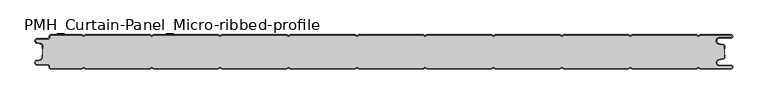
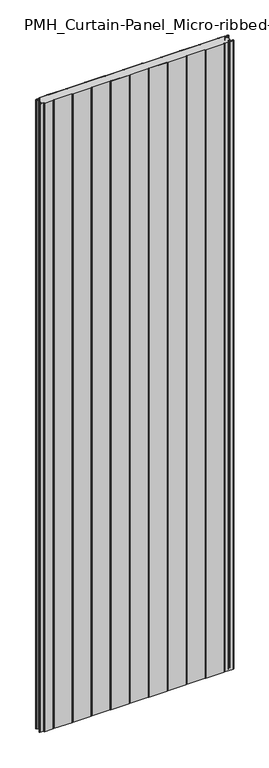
"""IFC4 building model written with IfcOpenShell, lengths in millimetres: plate geometry, PMH_Curtain-Panel_Micro-ribbed-profile : ACH_PMH_Stone-wool-Panel_50M."""

import ifcopenshell
import ifcopenshell.guid

model = None  # the IFC model being written
_history = None  # IfcOwnerHistory: only IFC2X3 demands one
_inside = {}  # id of a spatial element -> (the spatial element, [elements in it])
_under = {}  # id of a project, library or spatial element -> (it, [spatial elements below it])
_declared = {}  # id of a project -> (the project, [libraries it declares])
_typed = {}  # id of a type object -> (the type object, [elements of that type])
_made_of = {}  # id of a material, layer set ... -> (it, [elements and type objects made of it])


def new_model(schema):
    """Start an empty IFC model of exactly this schema.

    Asked for "IFC4X3", IfcOpenShell would pick the latest addendum, in which some entities
    have other attributes; the version numbers below select the first issue.
    IFC2X3 requires an IfcOwnerHistory on every rooted entity: one is made here for all.
    """
    global model, _history
    if schema == "IFC4X3":
        model = ifcopenshell.file(schema_version=(4, 3, 0, 0))
    else:
        model = ifcopenshell.file(schema=schema)
    _inside.clear()
    _under.clear()
    _declared.clear()
    _typed.clear()
    _made_of.clear()
    _history = None
    if model.schema == "IFC2X3":
        org = make("IfcOrganization", Name="unknown")
        user = make(
            "IfcPersonAndOrganization",
            ThePerson=make("IfcPerson", FamilyName="unknown"),
            TheOrganization=org,
        )
        app = make(
            "IfcApplication",
            ApplicationDeveloper=org,
            Version="unknown",
            ApplicationFullName="unknown",
            ApplicationIdentifier="unknown",
        )
        _history = make(
            "IfcOwnerHistory",
            OwningUser=user,
            OwningApplication=app,
            ChangeAction="ADDED",
            CreationDate=0,
        )
    return model


def make(cls, **values):
    """One entity of the class cls with the attributes given. An attribute that is None is left unset."""
    return model.create_entity(
        cls, **{name: value for name, value in values.items() if value is not None}
    )


def rooted(cls, **values):
    """An entity with a GlobalId (a new one), such as an element, a storey or a relation."""
    return make(cls, GlobalId=ifcopenshell.guid.new(), OwnerHistory=_history, **values)


def si_unit(unit_type, name, prefix=None):
    """IfcSIUnit, for example si_unit("LENGTHUNIT", "METRE", prefix="MILLI")."""
    return make("IfcSIUnit", UnitType=unit_type, Prefix=prefix, Name=name)


def assignment(units):
    """IfcUnitAssignment: the units of a project."""
    return None if units is None else make("IfcUnitAssignment", Units=units)


def point(xyz):
    """IfcCartesianPoint."""
    return None if xyz is None else make("IfcCartesianPoint", Coordinates=xyz)


def direction(xyz):
    """IfcDirection."""
    return None if xyz is None else make("IfcDirection", DirectionRatios=xyz)


def frame(location, z_axis=None, x_axis=None):
    """IfcAxis2Placement3D, a coordinate frame: its origin and axes. An axis left out is left unset."""
    return make(
        "IfcAxis2Placement3D",
        Location=point(location),
        Axis=direction(z_axis),
        RefDirection=direction(x_axis),
    )


def frame_2d(location, x_axis=None):
    """IfcAxis2Placement2D, a coordinate frame in the plane: its origin and x axis."""
    return make(
        "IfcAxis2Placement2D", Location=point(location), RefDirection=direction(x_axis)
    )


def origin():
    """The frame at (0, 0, 0) with its axes left unset."""
    return frame((0.0, 0.0, 0.0))


def origin_with_axes():
    """The frame at (0, 0, 0) with the z axis (0, 0, 1) and the x axis (1, 0, 0) written out."""
    return frame((0.0, 0.0, 0.0), z_axis=(0.0, 0.0, 1.0), x_axis=(1.0, 0.0, 0.0))


def place(relative_to, where):
    """IfcLocalPlacement: puts the frame where relative to a parent placement (None: the world)."""
    return make(
        "IfcLocalPlacement", PlacementRelTo=relative_to, RelativePlacement=where
    )


def context(
    kind, dimensions, precision=None, world=None, true_north=None, identifier=None
):
    """IfcGeometricRepresentationContext, for example the 3D "Model" context."""
    return make(
        "IfcGeometricRepresentationContext",
        ContextIdentifier=identifier,
        ContextType=kind,
        CoordinateSpaceDimension=dimensions,
        Precision=precision,
        WorldCoordinateSystem=world,
        TrueNorth=true_north,
    )


def project(units=None, contexts=None):
    """IfcProject with its units and contexts."""
    return rooted(
        "IfcProject",
        Name="project",
        RepresentationContexts=contexts,
        UnitsInContext=assignment(units),
    )


def spatial(cls, under=None, at=None, **own):
    """A site, building, storey or space (cls), placed at a placement, below another one or the project."""
    s = rooted(cls, ObjectPlacement=at, **own)
    if under is not None:
        _under.setdefault(under.id(), (under, []))[1].append(s)
    return s


def polyline(points):
    """IfcPolyline through the points."""
    return make("IfcPolyline", Points=[point(p) for p in points])


def circle_curve(where, radius):
    """IfcCircle in the frame where."""
    return make("IfcCircle", Position=where, Radius=radius)


def trimmed(basis, trim1, trim2, sense, master):
    """IfcTrimmedCurve: the piece of a basis curve between two trims."""
    return make(
        "IfcTrimmedCurve",
        BasisCurve=basis,
        Trim1=trim1,
        Trim2=trim2,
        SenseAgreement=sense,
        MasterRepresentation=master,
    )


def segment(curve, same_sense, transition):
    """IfcCompositeCurveSegment."""
    return make(
        "IfcCompositeCurveSegment",
        Transition=transition,
        SameSense=same_sense,
        ParentCurve=curve,
    )


def composite_curve(segments, self_intersect=None):
    """IfcCompositeCurve: segments joined end to end."""
    return make("IfcCompositeCurve", Segments=segments, SelfIntersect=self_intersect)


def outline(outer, holes=None, kind="AREA"):
    """IfcArbitraryClosedProfileDef: a profile drawn as a closed curve; with holes, ...WithVoids."""
    if holes is None:
        return make("IfcArbitraryClosedProfileDef", ProfileType=kind, OuterCurve=outer)
    return make(
        "IfcArbitraryProfileDefWithVoids",
        ProfileType=kind,
        OuterCurve=outer,
        InnerCurves=holes,
    )


def extrude(swept, where, along, depth):
    """IfcExtrudedAreaSolid: the profile swept, set in the frame where, extruded along a direction by depth."""
    return make(
        "IfcExtrudedAreaSolid",
        SweptArea=swept,
        Position=where,
        ExtrudedDirection=direction(along),
        Depth=depth,
    )


def shape(context_of_items, identifier, shape_type, items):
    """IfcShapeRepresentation: the items that make up one representation, for example the "Body"."""
    return make(
        "IfcShapeRepresentation",
        ContextOfItems=context_of_items,
        RepresentationIdentifier=identifier,
        RepresentationType=shape_type,
        Items=items,
    )


def source(mapping_origin, context_of_items, identifier, shape_type, items):
    """IfcRepresentationMap: a shape defined once, which mapped items show again and again."""
    return make(
        "IfcRepresentationMap",
        MappingOrigin=mapping_origin,
        MappedRepresentation=shape(context_of_items, identifier, shape_type, items),
    )


def transform(
    local_origin,
    x_axis=None,
    y_axis=None,
    z_axis=None,
    scale=None,
    scale2=None,
    scale3=None,
    uniform=True,
):
    """IfcCartesianTransformationOperator3D, or its non-uniform kind. x_axis, y_axis, z_axis: its Axis1, 2, 3."""
    if uniform:
        return make(
            "IfcCartesianTransformationOperator3D",
            Axis1=direction(x_axis),
            Axis2=direction(y_axis),
            LocalOrigin=point(local_origin),
            Scale=scale,
            Axis3=direction(z_axis),
        )
    return make(
        "IfcCartesianTransformationOperator3DnonUniform",
        Axis1=direction(x_axis),
        Axis2=direction(y_axis),
        LocalOrigin=point(local_origin),
        Scale=scale,
        Axis3=direction(z_axis),
        Scale2=scale2,
        Scale3=scale3,
    )


def mapped(mapping_source, mapping_target):
    """IfcMappedItem: shows the shape of a source again, moved by a transform."""
    return make(
        "IfcMappedItem", MappingSource=mapping_source, MappingTarget=mapping_target
    )


def made_of(thing, what):
    """Note that an element or type object is made of a material, layer set ...; save() writes the relation."""
    if what is not None:
        _made_of.setdefault(what.id(), (what, []))[1].append(thing)
    return thing


def element(
    cls,
    number,
    at=None,
    inside=None,
    cuts=None,
    type_object=None,
    material=None,
    context=None,
    identifier="Body",
    shape_type=None,
    held_by="IfcProductDefinitionShape",
    body=None,
    shapes=None,
    **own,
):
    """One element of the class cls, such as IfcWall. Its Tag is "e" and its number.

    at: its placement. inside: the storey or other place that contains it. cuts: it is an
    opening in that element (IfcRelVoidsElement). A single representation is given by context,
    identifier, shape_type and body (its items); several are given by shapes. held_by: the class
    of the entity that holds the representations. save() writes the other relations.
    """
    e = rooted(cls, Tag="e%d" % number, ObjectPlacement=at, **own)
    if body is not None:
        shapes = [shape(context, identifier, shape_type, body)]
    if shapes is not None:
        e.Representation = make(held_by, Representations=shapes)
    if inside is not None:
        _inside.setdefault(inside.id(), (inside, []))[1].append(e)
    if cuts is not None:
        rooted(
            "IfcRelVoidsElement", RelatingBuildingElement=cuts, RelatedOpeningElement=e
        )
    if type_object is not None:
        _typed.setdefault(type_object.id(), (type_object, []))[1].append(e)
    return made_of(e, material)


def aggregate(whole, parts):
    """IfcRelAggregates: a whole, such as a stair, and the parts it consists of."""
    return rooted("IfcRelAggregates", RelatingObject=whole, RelatedObjects=parts)


def save(model, path):
    """Write the relations noted so far, then the file.

    IfcRelAggregates (storeys below a building ...), IfcRelContainedInSpatialStructure (elements
    in a storey), IfcRelDefinesByType, IfcRelAssociatesMaterial and IfcRelDeclares: one each for
    every whole, place, type object, material and project.
    """
    for whole, parts in _under.values():
        aggregate(whole, parts)
    for where, things in _inside.values():
        rooted(
            "IfcRelContainedInSpatialStructure",
            RelatedElements=things,
            RelatingStructure=where,
        )
    for kind, things in _typed.values():
        rooted("IfcRelDefinesByType", RelatedObjects=things, RelatingType=kind)
    for what, things in _made_of.values():
        rooted("IfcRelAssociatesMaterial", RelatedObjects=things, RelatingMaterial=what)
    for by, libraries in _declared.values():
        rooted("IfcRelDeclares", RelatingContext=by, RelatedDefinitions=libraries)
    model.write(path)


def pmh_curtain_panel_micro_ribbed_profile_ddb1c74e(model_context):
    return source(origin(), model_context, "Body", "SweptSolid", [
        extrude(outline(composite_curve([segment(trimmed(circle_curve(frame_2d((-502.0, -15.878557)), 2.0), [point((-500.0, -15.878557))], [point((-501.5500978, -13.9298169))], True, "CARTESIAN"), True, "CONTINUOUS"), segment(polyline([(-501.5500978, -13.9298169), (-507.7098239, -12.507732)]), True, "CONTINUOUS"), segment(trimmed(circle_curve(frame_2d((-506.9, -9.0)), 3.6), [point((-507.7098239, -12.507732))], [point((-506.9, -5.4))], False, "CARTESIAN"), True, "CONTINUOUS"), segment(polyline([(-506.9, -5.4), (-491.4, -5.4)]), True, "CONTINUOUS"), segment(trimmed(circle_curve(frame_2d((-491.4, -3.4)), 2.0), [point((-491.4, -5.4))], [point((-489.4, -3.4))], True, "CARTESIAN"), True, "CONTINUOUS"), segment(polyline([(-489.4, -3.4), (-489.4, -2.0)]), True, "CONTINUOUS"), segment(trimmed(circle_curve(frame_2d((-487.4, -2.0)), 2.0), [point((-489.4, -2.0))], [point((-487.4, 0.0))], False, "CARTESIAN"), True, "CONTINUOUS"), segment(polyline([(-487.4, 0.0), (-442.0999995, 0.0), (-439.4, -1.5588455), (-436.7000005, 0.0), (-342.0999995, 0.0), (-339.4, -1.5588455), (-336.7000005, 0.0), (-242.0999995, 0.0), (-239.4, -1.5588455), (-236.7000005, 0.0), (-142.0999995, 0.0), (-139.4, -1.5588455), (-136.7000005, 0.0), (-42.0999995, 0.0), (-39.4, -1.5588455), (-36.7000005, 0.0), (57.9000005, 0.0), (60.6, -1.5588455), (63.2999995, 0.0), (157.9000005, 0.0), (160.6, -1.5588455), (163.2999995, 0.0), (257.9000005, 0.0), (260.6, -1.5588455), (263.2999995, 0.0), (357.9000005, 0.0), (360.6, -1.5588455), (363.2999995, 0.0), (457.9000005, 0.0), (460.6, -1.5588455), (463.2999995, 0.0), (508.1, 0.0)]), True, "CONTINUOUS"), segment(trimmed(circle_curve(frame_2d((508.1, -2.5)), 2.5), [point((508.1, 0.0))], [point((508.1, -5.0))], False, "CARTESIAN"), True, "CONTINUOUS"), segment(polyline([(508.1, -5.0), (491.1, -5.0)]), True, "CONTINUOUS"), segment(trimmed(circle_curve(frame_2d((491.1, -9.0)), 4.0), [point((491.1, -5.0))], [point((490.405407, -12.939231))], True, "CARTESIAN"), True, "CONTINUOUS"), segment(polyline([(490.405407, -12.939231), (496.8514855, -14.0758491)]), True, "CONTINUOUS"), segment(trimmed(circle_curve(frame_2d((496.4, -16.6363492)), 2.6), [point((496.8514855, -14.0758491))], [point((499.0, -16.6363492))], False, "CARTESIAN"), True, "CONTINUOUS"), segment(polyline([(499.0, -16.6363492), (499.0, -20.0), (498.2, -20.0), (498.2, -16.6363492)]), True, "CONTINUOUS"), segment(trimmed(circle_curve(frame_2d((496.4, -16.6363492)), 1.8), [point((498.2, -16.6363492))], [point((496.7125669, -14.8636953))], True, "CARTESIAN"), True, "CONTINUOUS"), segment(polyline([(496.7125669, -14.8636953), (490.2664884, -13.7270772)]), True, "CONTINUOUS"), segment(trimmed(circle_curve(frame_2d((491.1, -9.0)), 4.8), [point((490.2664884, -13.7270772))], [point((491.1, -4.2))], False, "CARTESIAN"), True, "CONTINUOUS"), segment(polyline([(491.1, -4.2), (508.1, -4.2)]), True, "CONTINUOUS"), segment(trimmed(circle_curve(frame_2d((508.1, -2.5)), 1.7), [point((508.1, -4.2))], [point((508.1, -0.8))], True, "CARTESIAN"), True, "CONTINUOUS"), segment(polyline([(508.1, -0.8), (463.5143588, -0.8), (460.6, -2.482606), (457.6856412, -0.8), (363.5143588, -0.8), (360.6, -2.482606), (357.6856412, -0.8), (263.5143588, -0.8), (260.6, -2.482606), (257.6856412, -0.8), (163.5143588, -0.8), (160.6, -2.482606), (157.6856412, -0.8), (63.5143588, -0.8), (60.6, -2.482606), (57.6856412, -0.8), (-36.4856412, -0.8), (-39.4, -2.482606), (-42.3143588, -0.8), (-136.4856412, -0.8), (-139.4, -2.482606), (-142.3143588, -0.8), (-236.4856412, -0.8), (-239.4, -2.482606), (-242.3143588, -0.8), (-336.4856412, -0.8), (-339.4, -2.482606), (-342.3143588, -0.8), (-436.4856412, -0.8), (-439.4, -2.482606), (-442.3143588, -0.8), (-487.4, -0.8)]), True, "CONTINUOUS"), segment(trimmed(circle_curve(frame_2d((-487.4, -2.0)), 1.2), [point((-487.4, -0.8))], [point((-488.6, -2.0))], True, "CARTESIAN"), True, "CONTINUOUS"), segment(polyline([(-488.6, -2.0), (-488.6, -3.4)]), True, "CONTINUOUS"), segment(trimmed(circle_curve(frame_2d((-491.4, -3.4)), 2.8), [point((-488.6, -3.4))], [point((-491.4, -6.2))], False, "CARTESIAN"), True, "CONTINUOUS"), segment(polyline([(-491.4, -6.2), (-506.9, -6.2)]), True, "CONTINUOUS"), segment(trimmed(circle_curve(frame_2d((-506.9, -9.0)), 2.8), [point((-506.9, -6.2))], [point((-507.529863, -11.7282362))], True, "CARTESIAN"), True, "CONTINUOUS"), segment(polyline([(-507.529863, -11.7282362), (-501.370137, -13.150321)]), True, "CONTINUOUS"), segment(trimmed(circle_curve(frame_2d((-502.0, -15.878557)), 2.8), [point((-501.370137, -13.150321))], [point((-499.2, -15.878557))], False, "CARTESIAN"), True, "CONTINUOUS"), segment(polyline([(-499.2, -15.878557), (-499.2, -20.0), (-500.0, -20.0), (-500.0, -15.878557)]), True, "CONTINUOUS")], self_intersect=False)), origin_with_axes(), (0.0, 0.0, 1.0), 3500.0),
        extrude(outline(composite_curve([segment(polyline([(-499.2, -34.1214426), (-499.2, -15.8785573)]), True, "CONTINUOUS"), segment(trimmed(circle_curve(frame_2d((-502.0, -15.8785573)), 2.8), [point((-499.2, -15.8785573))], [point((-501.370137, -13.1503212))], True, "CARTESIAN"), True, "CONTINUOUS"), segment(polyline([(-501.370137, -13.1503212), (-507.5298631, -11.7282362)]), True, "CONTINUOUS"), segment(trimmed(circle_curve(frame_2d((-506.9, -9.0)), 2.8), [point((-507.5298631, -11.7282362))], [point((-506.9, -6.2))], False, "CARTESIAN"), True, "CONTINUOUS"), segment(polyline([(-506.9, -6.2), (-491.4000001, -6.2)]), True, "CONTINUOUS"), segment(trimmed(circle_curve(frame_2d((-491.4000001, -3.4)), 2.8), [point((-491.4000001, -6.2))], [point((-488.6000001, -3.4))], True, "CARTESIAN"), True, "CONTINUOUS"), segment(polyline([(-488.6000001, -3.4), (-488.6000001, -2.0)]), True, "CONTINUOUS"), segment(trimmed(circle_curve(frame_2d((-487.4000001, -2.0)), 1.2), [point((-488.6000001, -2.0))], [point((-487.4000001, -0.8))], False, "CARTESIAN"), True, "CONTINUOUS"), segment(polyline([(-487.4000001, -0.8), (-442.3143589, -0.8), (-439.4000001, -2.482606), (-436.4856412, -0.8), (-342.3143589, -0.8), (-339.4000001, -2.482606), (-336.4856412, -0.8), (-242.3143589, -0.8), (-239.4000001, -2.482606), (-236.4856412, -0.8), (-142.3143589, -0.8), (-139.4000001, -2.482606), (-136.4856412, -0.8), (-42.3143589, -0.8), (-39.4000001, -2.482606), (-36.4856412, -0.8), (57.6856411, -0.8), (60.5999999, -2.482606), (63.5143588, -0.8), (157.6856411, -0.8), (160.5999999, -2.482606), (163.5143588, -0.8), (257.6856411, -0.8), (260.5999999, -2.482606), (263.5143588, -0.8), (357.6856411, -0.8), (360.5999999, -2.482606), (363.5143588, -0.8), (457.6856411, -0.8), (460.5999999, -2.482606), (463.5143588, -0.8), (508.0999999, -0.8)]), True, "CONTINUOUS"), segment(trimmed(circle_curve(frame_2d((508.0999999, -2.5)), 1.7), [point((508.0999999, -0.8))], [point((508.0999999, -4.2))], False, "CARTESIAN"), True, "CONTINUOUS"), segment(polyline([(508.0999999, -4.2), (491.0999999, -4.2)]), True, "CONTINUOUS"), segment(trimmed(circle_curve(frame_2d((491.0999999, -9.0)), 4.8), [point((491.0999999, -4.2))], [point((490.2664883, -13.7270771))], True, "CARTESIAN"), True, "CONTINUOUS"), segment(polyline([(490.2664883, -13.7270771), (496.7125668, -14.8636953)]), True, "CONTINUOUS"), segment(trimmed(circle_curve(frame_2d((496.3999999, -16.6363492)), 1.8), [point((496.7125668, -14.8636953))], [point((498.1999999, -16.6363492))], False, "CARTESIAN"), True, "CONTINUOUS"), segment(polyline([(498.1999999, -16.6363492), (498.1999999, -33.3636508)]), True, "CONTINUOUS"), segment(trimmed(circle_curve(frame_2d((496.3999999, -33.3636508)), 1.8), [point((498.1999999, -33.3636508))], [point((496.7125668, -35.1363047))], False, "CARTESIAN"), True, "CONTINUOUS"), segment(polyline([(496.7125668, -35.1363047), (490.2664883, -36.2729229)]), True, "CONTINUOUS"), segment(trimmed(circle_curve(frame_2d((491.0999999, -41.0)), 4.8), [point((490.2664883, -36.2729229))], [point((491.0999999, -45.8))], True, "CARTESIAN"), True, "CONTINUOUS"), segment(polyline([(491.0999999, -45.8), (508.0999999, -45.8)]), True, "CONTINUOUS"), segment(trimmed(circle_curve(frame_2d((508.0999999, -47.5)), 1.7), [point((508.0999999, -45.8))], [point((508.0999999, -49.2))], False, "CARTESIAN"), True, "CONTINUOUS"), segment(polyline([(508.0999999, -49.2), (463.5143588, -49.2), (460.5999999, -47.517394), (457.6856411, -49.2), (363.5143588, -49.2), (360.5999999, -47.517394), (357.6856411, -49.2), (263.5143588, -49.2), (260.5999999, -47.517394), (257.6856411, -49.2), (163.5143588, -49.2), (160.5999999, -47.517394), (157.6856411, -49.2), (63.5143588, -49.2), (60.5999999, -47.517394), (57.6856411, -49.2), (-36.4856412, -49.2), (-39.4000001, -47.517394), (-42.3143589, -49.2), (-136.4856412, -49.2), (-139.4000001, -47.517394), (-142.3143589, -49.2), (-236.4856412, -49.2), (-239.4000001, -47.517394), (-242.3143589, -49.2), (-336.4856412, -49.2), (-339.4000001, -47.517394), (-342.3143589, -49.2), (-436.4856412, -49.2), (-439.4000001, -47.517394), (-442.3143589, -49.2), (-487.4000001, -49.2)]), True, "CONTINUOUS"), segment(trimmed(circle_curve(frame_2d((-487.4000001, -48.0)), 1.2), [point((-487.4000001, -49.2))], [point((-488.6000001, -48.0))], False, "CARTESIAN"), True, "CONTINUOUS"), segment(polyline([(-488.6000001, -48.0), (-488.6000001, -46.6)]), True, "CONTINUOUS"), segment(trimmed(circle_curve(frame_2d((-491.4000001, -46.6)), 2.8), [point((-488.6000001, -46.6))], [point((-491.4000001, -43.8))], True, "CARTESIAN"), True, "CONTINUOUS"), segment(polyline([(-491.4000001, -43.8), (-506.9, -43.8)]), True, "CONTINUOUS"), segment(trimmed(circle_curve(frame_2d((-506.9, -41.0)), 2.8), [point((-506.9, -43.8))], [point((-507.5298631, -38.2717638))], False, "CARTESIAN"), True, "CONTINUOUS"), segment(polyline([(-507.5298631, -38.2717638), (-501.370137, -36.8496788)]), True, "CONTINUOUS"), segment(trimmed(circle_curve(frame_2d((-502.0, -34.1214426)), 2.8), [point((-501.370137, -36.8496788))], [point((-499.2, -34.1214426))], True, "CARTESIAN"), True, "CONTINUOUS")], self_intersect=False)), origin_with_axes(), (0.0, 0.0, 1.0), 3500.0),
        extrude(outline(composite_curve([segment(polyline([(-500.0, -34.121443), (-500.0, -30.0), (-499.2, -30.0), (-499.2, -34.121443)]), True, "CONTINUOUS"), segment(trimmed(circle_curve(frame_2d((-502.0, -34.121443)), 2.8), [point((-499.2, -34.121443))], [point((-501.370137, -36.8496792))], False, "CARTESIAN"), True, "CONTINUOUS"), segment(polyline([(-501.370137, -36.8496792), (-507.529863, -38.271764)]), True, "CONTINUOUS"), segment(trimmed(circle_curve(frame_2d((-506.9, -41.0)), 2.8), [point((-507.529863, -38.271764))], [point((-506.9, -43.8))], True, "CARTESIAN"), True, "CONTINUOUS"), segment(polyline([(-506.9, -43.8), (-491.4, -43.8)]), True, "CONTINUOUS"), segment(trimmed(circle_curve(frame_2d((-491.4, -46.6)), 2.8), [point((-491.4, -43.8))], [point((-488.6, -46.6))], False, "CARTESIAN"), True, "CONTINUOUS"), segment(polyline([(-488.6, -46.6), (-488.6, -48.0)]), True, "CONTINUOUS"), segment(trimmed(circle_curve(frame_2d((-487.4, -48.0)), 1.2), [point((-488.6, -48.0))], [point((-487.4, -49.2))], True, "CARTESIAN"), True, "CONTINUOUS"), segment(polyline([(-487.4, -49.2), (-442.3143588, -49.2), (-439.4, -47.517394), (-436.4856412, -49.2), (-342.3143588, -49.2), (-339.4, -47.517394), (-336.4856412, -49.2), (-242.3143588, -49.2), (-239.4, -47.517394), (-236.4856412, -49.2), (-142.3143588, -49.2), (-139.4, -47.517394), (-136.4856412, -49.2), (-42.3143588, -49.2), (-39.4, -47.517394), (-36.4856412, -49.2), (57.6856412, -49.2), (60.6, -47.517394), (63.5143588, -49.2), (157.6856412, -49.2), (160.6, -47.517394), (163.5143588, -49.2), (257.6856412, -49.2), (260.6, -47.517394), (263.5143588, -49.2), (357.6856412, -49.2), (360.6, -47.517394), (363.5143588, -49.2), (457.6856412, -49.2), (460.6, -47.517394), (463.5143588, -49.2), (508.1, -49.2)]), True, "CONTINUOUS"), segment(trimmed(circle_curve(frame_2d((508.1, -47.5)), 1.7), [point((508.1, -49.2))], [point((508.1, -45.8))], True, "CARTESIAN"), True, "CONTINUOUS"), segment(polyline([(508.1, -45.8), (491.1, -45.8)]), True, "CONTINUOUS"), segment(trimmed(circle_curve(frame_2d((491.1, -41.0)), 4.8), [point((491.1, -45.8))], [point((490.2664884, -36.2729229))], False, "CARTESIAN"), True, "CONTINUOUS"), segment(polyline([(490.2664884, -36.2729229), (496.7125669, -35.1363047)]), True, "CONTINUOUS"), segment(trimmed(circle_curve(frame_2d((496.4, -33.3636508)), 1.8), [point((496.7125669, -35.1363047))], [point((498.2, -33.3636508))], True, "CARTESIAN"), True, "CONTINUOUS"), segment(polyline([(498.2, -33.3636508), (498.2, -30.0), (499.0, -30.0), (499.0, -33.3636508)]), True, "CONTINUOUS"), segment(trimmed(circle_curve(frame_2d((496.4, -33.3636508)), 2.6), [point((499.0, -33.3636508))], [point((496.8514855, -35.9241509))], False, "CARTESIAN"), True, "CONTINUOUS"), segment(polyline([(496.8514855, -35.9241509), (490.405407, -37.060769)]), True, "CONTINUOUS"), segment(trimmed(circle_curve(frame_2d((491.1, -41.0)), 4.0), [point((490.405407, -37.060769))], [point((491.1, -45.0))], True, "CARTESIAN"), True, "CONTINUOUS"), segment(polyline([(491.1, -45.0), (508.1, -45.0)]), True, "CONTINUOUS"), segment(trimmed(circle_curve(frame_2d((508.1, -47.5)), 2.5), [point((508.1, -45.0))], [point((508.1, -50.0))], False, "CARTESIAN"), True, "CONTINUOUS"), segment(polyline([(508.1, -50.0), (463.2999995, -50.0), (460.6, -48.4411545), (457.9000005, -50.0), (363.2999995, -50.0), (360.6, -48.4411545), (357.9000005, -50.0), (263.2999995, -50.0), (260.6, -48.4411545), (257.9000005, -50.0), (163.2999995, -50.0), (160.6, -48.4411545), (157.9000005, -50.0), (63.2999995, -50.0), (60.6, -48.4411545), (57.9000005, -50.0), (-36.7000005, -50.0), (-39.4, -48.4411545), (-42.0999995, -50.0), (-136.7000005, -50.0), (-139.4, -48.4411545), (-142.0999995, -50.0), (-236.7000005, -50.0), (-239.4, -48.4411545), (-242.0999995, -50.0), (-336.7000005, -50.0), (-339.4, -48.4411545), (-342.0999995, -50.0), (-436.7000005, -50.0), (-439.4, -48.4411545), (-442.0999995, -50.0), (-487.4, -50.0)]), True, "CONTINUOUS"), segment(trimmed(circle_curve(frame_2d((-487.4, -48.0)), 2.0), [point((-487.4, -50.0))], [point((-489.4, -48.0))], False, "CARTESIAN"), True, "CONTINUOUS"), segment(polyline([(-489.4, -48.0), (-489.4, -46.6)]), True, "CONTINUOUS"), segment(trimmed(circle_curve(frame_2d((-491.4, -46.6)), 2.0), [point((-489.4, -46.6))], [point((-491.4, -44.6))], True, "CARTESIAN"), True, "CONTINUOUS"), segment(polyline([(-491.4, -44.6), (-506.9, -44.6)]), True, "CONTINUOUS"), segment(trimmed(circle_curve(frame_2d((-506.9, -41.0)), 3.6), [point((-506.9, -44.6))], [point((-507.7098239, -37.4922678))], False, "CARTESIAN"), True, "CONTINUOUS"), segment(polyline([(-507.7098239, -37.4922678), (-501.5500979, -36.070183)]), True, "CONTINUOUS"), segment(trimmed(circle_curve(frame_2d((-502.0, -34.121443)), 2.0), [point((-501.5500979, -36.070183))], [point((-500.0, -34.121443))], True, "CARTESIAN"), True, "CONTINUOUS")], self_intersect=False)), origin_with_axes(), (0.0, 0.0, 1.0), 3500.0),
    ])


if __name__ == "__main__":
    model = new_model("IFC4")
    model_context = context("Model", 3, world=origin())
    ifc_project = project(units=[si_unit("LENGTHUNIT", "METRE", prefix="MILLI")], contexts=[model_context])
    site = spatial("IfcSite", under=ifc_project)
    building = spatial("IfcBuilding", under=site)
    placement = place(None, origin())
    pmh_curtain_panel_micro_ribbed_profile_shape = pmh_curtain_panel_micro_ribbed_profile_ddb1c74e(model_context)
    element("IfcPlate", 1, ObjectType="PMH_Curtain-Panel_Micro-ribbed-profile : ACH_PMH_Stone-wool-Panel_50M", at=placement, inside=building, context=model_context, shape_type="MappedRepresentation", body=[
        mapped(pmh_curtain_panel_micro_ribbed_profile_shape, transform((0.0, 0.0, 0.0), x_axis=(1.0, 0.0, 0.0), y_axis=(0.0, 1.0, 0.0), z_axis=(0.0, 0.0, 1.0))),
    ])
    save(model, "model.ifc")
